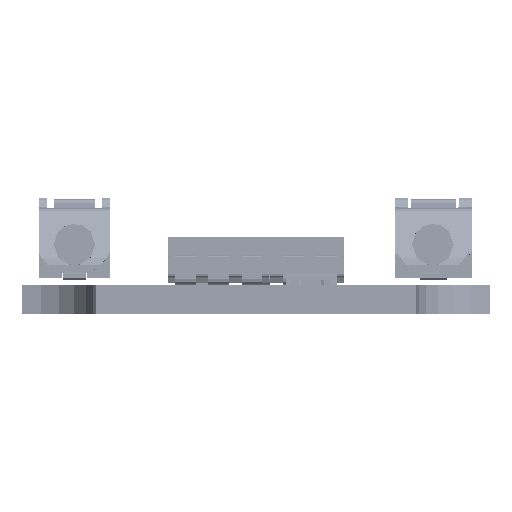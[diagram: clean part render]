
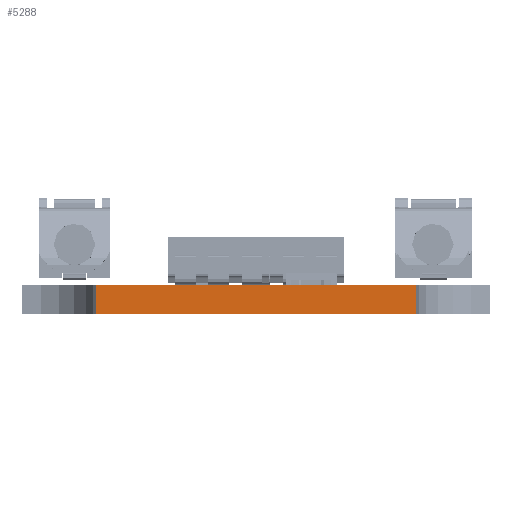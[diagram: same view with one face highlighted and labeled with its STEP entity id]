
A CAD part, left-side view. The second image highlights one B-rep face of the part: STEP entity #5288.
In plain terms, the highlighted planar face has unit normal (-1, 0, 0).
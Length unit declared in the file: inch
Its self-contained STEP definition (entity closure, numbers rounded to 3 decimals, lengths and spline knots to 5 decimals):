
#971 = CARTESIAN_POINT ( 'NONE',  ( -22.01575, -0.34252, 0. ) ) ;
#1031 = VECTOR ( 'NONE', #13774, 39.37008 ) ;
#1266 = ORIENTED_EDGE ( 'NONE', *, *, #18493, .F. ) ;
#1797 = VERTEX_POINT ( 'NONE', #20674 ) ;
#2349 = VECTOR ( 'NONE', #18590, 39.37008 ) ;
#2467 = AXIS2_PLACEMENT_3D ( 'NONE', #6737, #13089, #6834 ) ;
#2877 = VERTEX_POINT ( 'NONE', #971 ) ;
#3033 = DIRECTION ( 'NONE',  ( 0., -1., 0. ) ) ;
#3571 = EDGE_LOOP ( 'NONE', ( #6848, #7510, #1266, #19770 ) ) ;
#3951 = VECTOR ( 'NONE', #3033, 39.37008 ) ;
#5050 = VECTOR ( 'NONE', #25856, 39.37008 ) ;
#5288 = ADVANCED_FACE ( 'NONE', ( #10901 ), #10806, .T. ) ;
#5997 = LINE ( 'NONE', #24063, #1031 ) ;
#6737 = CARTESIAN_POINT ( 'NONE',  ( -22.01575, 0.34252, 0. ) ) ;
#6834 = DIRECTION ( 'NONE',  ( 0., 0., 1. ) ) ;
#6848 = ORIENTED_EDGE ( 'NONE', *, *, #20274, .F. ) ;
#7510 = ORIENTED_EDGE ( 'NONE', *, *, #21718, .T. ) ;
#8354 = EDGE_CURVE ( 'NONE', #15401, #20290, #26207, .T. ) ;
#10166 = CARTESIAN_POINT ( 'NONE',  ( -22.01575, 0.34252, 0.06299 ) ) ;
#10806 = PLANE ( 'NONE',  #2467 ) ;
#10901 = FACE_OUTER_BOUND ( 'NONE', #3571, .T. ) ;
#13089 = DIRECTION ( 'NONE',  ( -1., 0., 0. ) ) ;
#13774 = DIRECTION ( 'NONE',  ( 0., 0., -1. ) ) ;
#14577 = CARTESIAN_POINT ( 'NONE',  ( -22.01575, -0.34252, 0.06299 ) ) ;
#15401 = VERTEX_POINT ( 'NONE', #14577 ) ;
#18063 = CARTESIAN_POINT ( 'NONE',  ( -22.01575, 0.34252, 0. ) ) ;
#18493 = EDGE_CURVE ( 'NONE', #15401, #2877, #5997, .T. ) ;
#18590 = DIRECTION ( 'NONE',  ( 0., 0., 1. ) ) ;
#19770 = ORIENTED_EDGE ( 'NONE', *, *, #8354, .T. ) ;
#20274 = EDGE_CURVE ( 'NONE', #1797, #20290, #21841, .T. ) ;
#20290 = VERTEX_POINT ( 'NONE', #10166 ) ;
#20674 = CARTESIAN_POINT ( 'NONE',  ( -22.01575, 0.34252, 0. ) ) ;
#21718 = EDGE_CURVE ( 'NONE', #1797, #2877, #21794, .T. ) ;
#21794 = LINE ( 'NONE', #18063, #3951 ) ;
#21841 = LINE ( 'NONE', #22836, #2349 ) ;
#22836 = CARTESIAN_POINT ( 'NONE',  ( -22.01575, 0.34252, 0. ) ) ;
#23715 = CARTESIAN_POINT ( 'NONE',  ( -22.01575, 0.34252, 0.06299 ) ) ;
#24063 = CARTESIAN_POINT ( 'NONE',  ( -22.01575, -0.34252, 0. ) ) ;
#25856 = DIRECTION ( 'NONE',  ( 0., 1., 0. ) ) ;
#26207 = LINE ( 'NONE', #23715, #5050 ) ;
